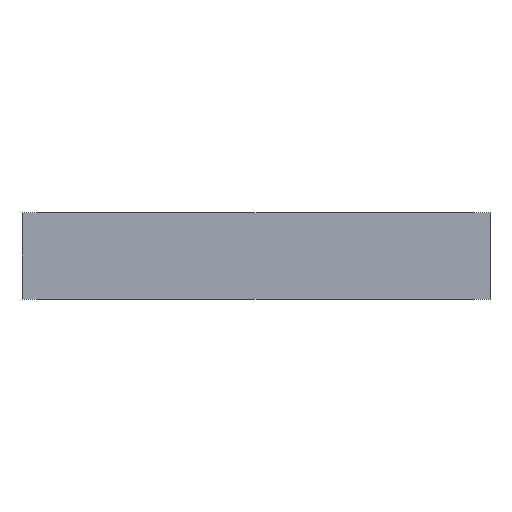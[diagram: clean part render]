
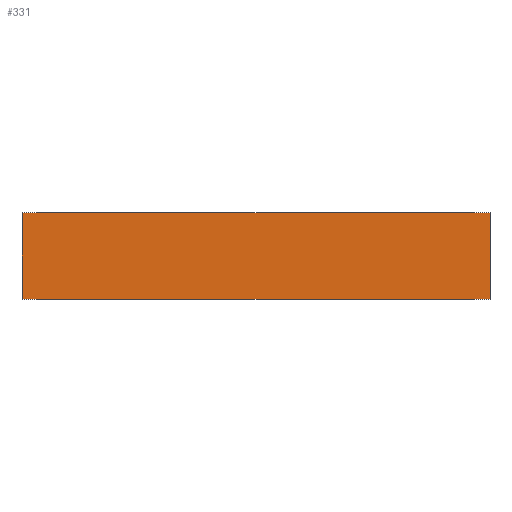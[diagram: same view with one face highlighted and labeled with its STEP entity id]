
A CAD part, front view. The second image highlights one B-rep face of the part: STEP entity #331.
In plain terms, the highlighted planar face has unit normal (0, -1, 0).
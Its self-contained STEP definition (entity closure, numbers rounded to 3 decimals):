
#36 = EDGE_CURVE ( 'NONE', #560, #580, #167, .T. ) ;
#44 = EDGE_CURVE ( 'NONE', #580, #536, #157, .T. ) ;
#55 = EDGE_CURVE ( 'NONE', #560, #565, #145, .T. ) ;
#60 = AXIS2_PLACEMENT_3D ( 'NONE', #464, #447, #446 ) ;
#61 = EDGE_CURVE ( 'NONE', #565, #536, #137, .T. ) ;
#105 = FACE_OUTER_BOUND ( 'NONE', #229, .T. ) ;
#136 = VECTOR ( 'NONE', #526, 1000. ) ;
#137 = LINE ( 'NONE', #528, #136 ) ;
#144 = VECTOR ( 'NONE', #539, 1000. ) ;
#145 = LINE ( 'NONE', #540, #144 ) ;
#156 = VECTOR ( 'NONE', #557, 1000. ) ;
#157 = LINE ( 'NONE', #558, #156 ) ;
#166 = VECTOR ( 'NONE', #572, 1000. ) ;
#167 = LINE ( 'NONE', #573, #166 ) ;
#229 = EDGE_LOOP ( 'NONE', ( #245, #246, #247, #248 ) ) ;
#245 = ORIENTED_EDGE ( 'NONE', *, *, #44, .T. ) ;
#246 = ORIENTED_EDGE ( 'NONE', *, *, #61, .F. ) ;
#247 = ORIENTED_EDGE ( 'NONE', *, *, #55, .F. ) ;
#248 = ORIENTED_EDGE ( 'NONE', *, *, #36, .T. ) ;
#331 = ADVANCED_FACE ( 'NONE', ( #105 ), #454, .F. ) ;
#388 = CARTESIAN_POINT ( 'NONE',  ( -176., 0., 0. ) ) ;
#397 = CARTESIAN_POINT ( 'NONE',  ( 176., 0., 65. ) ) ;
#399 = CARTESIAN_POINT ( 'NONE',  ( -176., 0., 65. ) ) ;
#409 = CARTESIAN_POINT ( 'NONE',  ( 176., 0., 0. ) ) ;
#446 = DIRECTION ( 'NONE',  ( -1., 0., 0. ) ) ;
#447 = DIRECTION ( 'NONE',  ( 0., 1., 0. ) ) ;
#454 = PLANE ( 'NONE',  #60 ) ;
#464 = CARTESIAN_POINT ( 'NONE',  ( -176., 0., 65. ) ) ;
#526 = DIRECTION ( 'NONE',  ( 0., 0., -1. ) ) ;
#528 = CARTESIAN_POINT ( 'NONE',  ( 176., 0., 65. ) ) ;
#536 = VERTEX_POINT ( 'NONE', #409 ) ;
#539 = DIRECTION ( 'NONE',  ( 1., 0., 0. ) ) ;
#540 = CARTESIAN_POINT ( 'NONE',  ( -176., 0., 65. ) ) ;
#557 = DIRECTION ( 'NONE',  ( 1., 0., 0. ) ) ;
#558 = CARTESIAN_POINT ( 'NONE',  ( -176., 0., 0. ) ) ;
#560 = VERTEX_POINT ( 'NONE', #399 ) ;
#565 = VERTEX_POINT ( 'NONE', #397 ) ;
#572 = DIRECTION ( 'NONE',  ( 0., 0., -1. ) ) ;
#573 = CARTESIAN_POINT ( 'NONE',  ( -176., 0., 65. ) ) ;
#580 = VERTEX_POINT ( 'NONE', #388 ) ;
